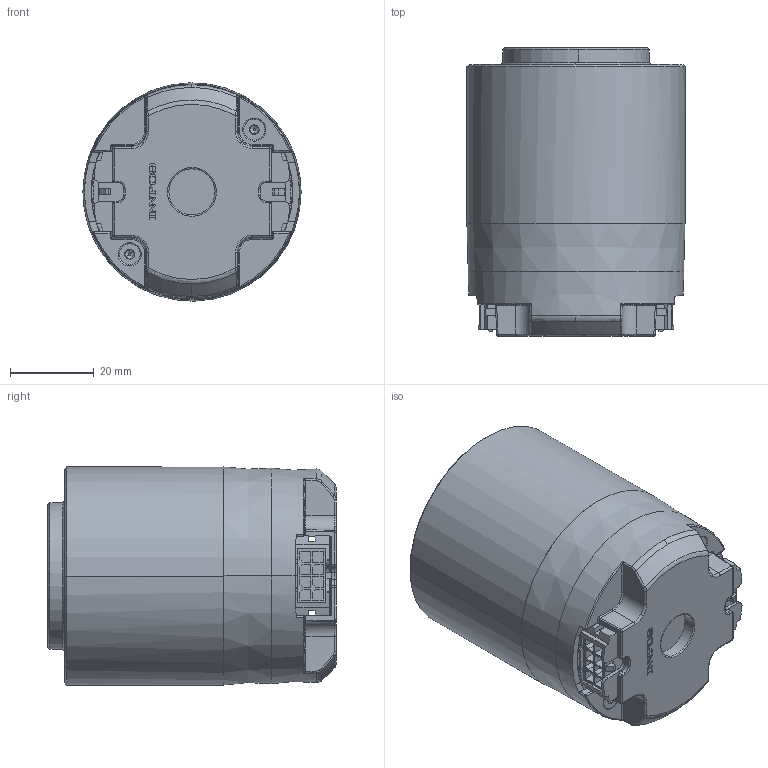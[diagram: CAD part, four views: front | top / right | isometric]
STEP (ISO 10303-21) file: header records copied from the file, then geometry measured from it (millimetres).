
FILE_DESCRIPTION (( 'STEP AP214' ), '1' );
FILE_NAME ('QDD-C-NE30-36_v1_8.STEP', '2019-07-26T07:08:12', ( 'Microsoft' ), ( 'Microsoft' ), 'SwSTEP 2.0', 'SolidWorks 2018', '' );
FILE_SCHEMA (( 'AUTOMOTIVE_DESIGN' ));
Length unit declared in the file: millimetre
Products named in the file (1): QDD-C-NE30-36_v1_8
Bounding box: 52.02 x 68.75 x 52.01 mm (x, y, z)
Surface area: 31012.8 mm2 (no closed solid volume)
Topology: 0 solids, 7 shells, 2798 faces, 7481 edges, 4725 vertices
Faces by surface type: plane 1850, bspline 524, cylinder 269, cone 105, torus 41, sphere 9
Entity records: 135738 total; most frequent: CARTESIAN_POINT 38713, ORIENTED_EDGE 14834, DIRECTION 11674, EDGE_CURVE 7420, LINE 5594, VECTOR 5594, VERTEX_POINT 4724, AXIS2_PLACEMENT_3D 3040
